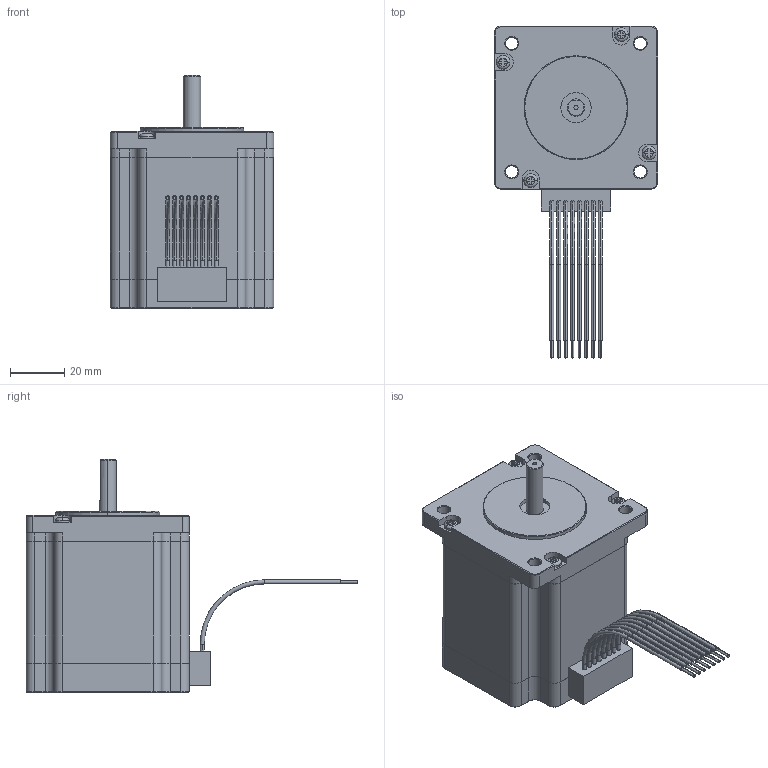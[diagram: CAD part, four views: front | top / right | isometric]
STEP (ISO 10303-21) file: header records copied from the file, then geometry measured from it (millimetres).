
FILE_DESCRIPTION (( 'STEP AP214' ), '1' );
FILE_NAME ('24Y304S-LW8.STEP', '2010-06-11T18:03:12', ( 'Tim Raines' ), ( 'Anaheim Automation' ), 'SwSTEP 2.0', 'SolidWorks 2010', '' );
FILE_SCHEMA (( 'AUTOMOTIVE_DESIGN' ));
Length unit declared in the file: inch
Products named in the file (1): 24Y304S-LW8
Bounding box: 59.94 x 121.84 x 85.6 mm (x, y, z)
Volume: 213308.4 mm3; surface area: 26689.9 mm2
Topology: 1 solids, 1 shells, 385 faces, 966 edges, 608 vertices
Faces by surface type: plane 175, cylinder 131, cone 55, torus 24
Entity records: 16616 total; most frequent: CARTESIAN_POINT 2206, DIRECTION 2039, ORIENTED_EDGE 1916, EDGE_CURVE 958, AXIS2_PLACEMENT_3D 753, VERTEX_POINT 608, VECTOR 533, LINE 533
